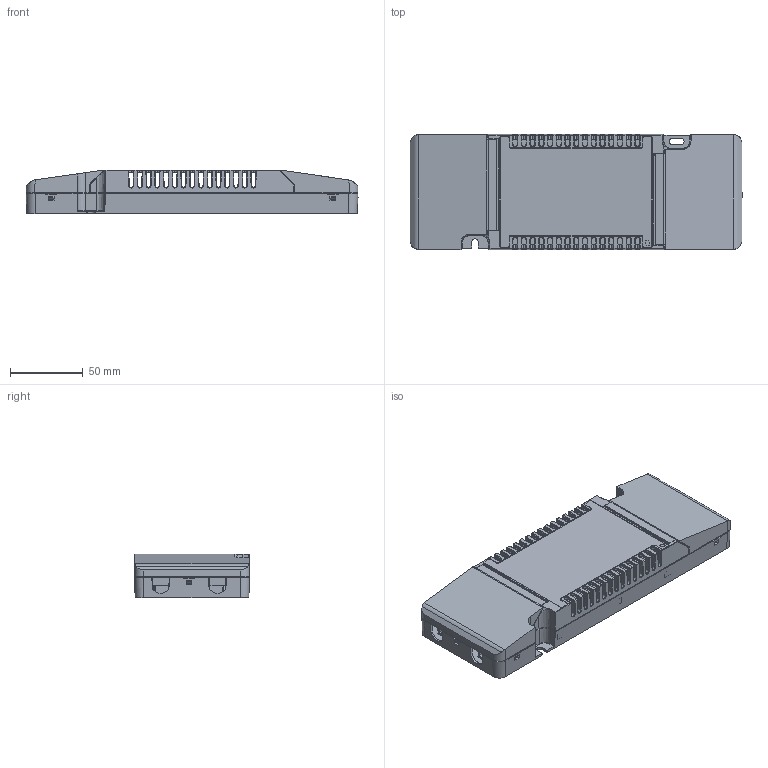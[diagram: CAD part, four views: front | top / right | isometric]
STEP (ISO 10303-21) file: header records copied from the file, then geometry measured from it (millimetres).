
FILE_DESCRIPTION (( 'STEP AP203' ), '1' );
FILE_NAME ('LC-LOOP+20mm.STEP', '2024-06-07T12:32:21', ( '' ), ( '' ), 'SwSTEP 2.0', 'SolidWorks 2022', '' );
FILE_SCHEMA (( 'CONFIG_CONTROL_DESIGN' ));
Length unit declared in the file: millimetre
Products named in the file (4): D009696 LC-LOOP+20mm Cover; LC-LOOP+20mm; 50w monsteri_vpkansi 4^LCXXSE-LOOP(2)_LCXXSE-LOOP; D009695 LC-LOOP+20mm Bottom Case
Assembly tree (4 placements, depth 2):
  LC-LOOP+20mm
    D009695 LC-LOOP+20mm Bottom Case
    D009696 LC-LOOP+20mm Cover
    50w monsteri_vpkansi 4^LCXXSE-LOOP(2)_LCXXSE-LOOP  x2
Bounding box: 227.94 x 79.11 x 30 mm (x, y, z)
Volume: 90899.6 mm3; surface area: 122894.1 mm2
Topology: 6 solids, 6 shells, 2837 faces, 7457 edges, 4489 vertices
Faces by surface type: plane 1129, cylinder 1059, bspline 431, sphere 154, cone 39, torus 25
Entity records: 86784 total; most frequent: CARTESIAN_POINT 29023, ORIENTED_EDGE 13226, DIRECTION 10662, EDGE_CURVE 6613, VERTEX_POINT 4030, LINE 3958, VECTOR 3958, AXIS2_PLACEMENT_3D 3352
